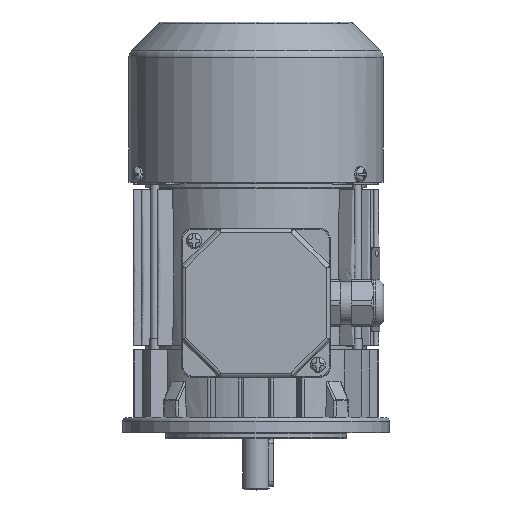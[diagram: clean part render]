
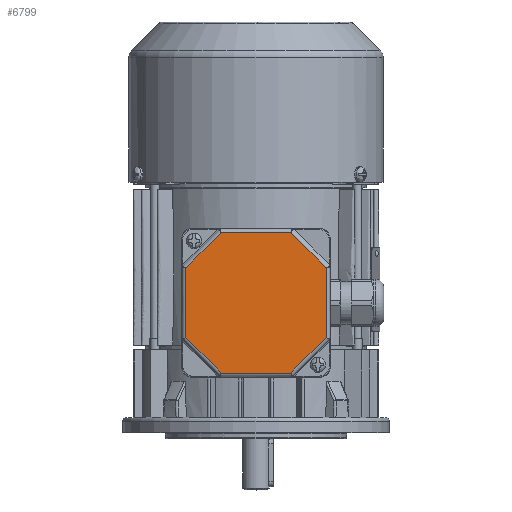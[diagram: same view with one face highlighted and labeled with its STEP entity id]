
A CAD part, top view. The second image highlights one B-rep face of the part: STEP entity #6799.
In plain terms, the highlighted planar face has unit normal (0, 0, 1).
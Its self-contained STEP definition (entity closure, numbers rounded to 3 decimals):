
#6799 = ADVANCED_FACE( '', ( #13914 ), #13915, .T. );
#13914 = FACE_OUTER_BOUND( '', #47651, .T. );
#13915 = PLANE( '', #47652 );
#47651 = EDGE_LOOP( '', ( #72312, #72313, #72314, #72315, #72316, #72317, #72318, #72319 ) );
#47652 = AXIS2_PLACEMENT_3D( '', #72320, #72321, #72322 );
#72312 = ORIENTED_EDGE( '', *, *, #77615, .T. );
#72313 = ORIENTED_EDGE( '', *, *, #83338, .T. );
#72314 = ORIENTED_EDGE( '', *, *, #82909, .T. );
#72315 = ORIENTED_EDGE( '', *, *, #79921, .T. );
#72316 = ORIENTED_EDGE( '', *, *, #78436, .T. );
#72317 = ORIENTED_EDGE( '', *, *, #79467, .T. );
#72318 = ORIENTED_EDGE( '', *, *, #75545, .T. );
#72319 = ORIENTED_EDGE( '', *, *, #82987, .T. );
#72320 = CARTESIAN_POINT( '', ( -39., 39., 12. ) );
#72321 = DIRECTION( '', ( 0., 0., 1. ) );
#72322 = DIRECTION( '', ( 1., 0., 0. ) );
#75545 = EDGE_CURVE( '', #83876, #83877, #83878, .F. );
#77615 = EDGE_CURVE( '', #87508, #87506, #87509, .F. );
#78436 = EDGE_CURVE( '', #88911, #88912, #88913, .F. );
#79467 = EDGE_CURVE( '', #88912, #83876, #90521, .T. );
#79921 = EDGE_CURVE( '', #91202, #88911, #91203, .T. );
#82909 = EDGE_CURVE( '', #86658, #91202, #95109, .F. );
#82987 = EDGE_CURVE( '', #83877, #87508, #95193, .T. );
#83338 = EDGE_CURVE( '', #87506, #86658, #95579, .T. );
#83876 = VERTEX_POINT( '', #96121 );
#83877 = VERTEX_POINT( '', #96122 );
#83878 = LINE( '', #96123, #96124 );
#86658 = VERTEX_POINT( '', #106397 );
#87506 = VERTEX_POINT( '', #109334 );
#87508 = VERTEX_POINT( '', #109336 );
#87509 = LINE( '', #109337, #109338 );
#88911 = VERTEX_POINT( '', #112368 );
#88912 = VERTEX_POINT( '', #112369 );
#88913 = LINE( '', #112370, #112371 );
#90521 = LINE( '', #117937, #117938 );
#91202 = VERTEX_POINT( '', #119884 );
#91203 = LINE( '', #119885, #119886 );
#95109 = LINE( '', #135285, #135286 );
#95193 = LINE( '', #135549, #135550 );
#95579 = LINE( '', #137090, #137091 );
#96121 = CARTESIAN_POINT( '', ( -18.255, -36.825, 12. ) );
#96122 = CARTESIAN_POINT( '', ( 18.255, -36.825, 12. ) );
#96123 = CARTESIAN_POINT( '', ( 19.069, -36.825, 12. ) );
#96124 = VECTOR( '', #138154, 1000. );
#106397 = CARTESIAN_POINT( '', ( 18.255, 36.825, 12. ) );
#109334 = CARTESIAN_POINT( '', ( 36.825, 18.255, 12. ) );
#109336 = CARTESIAN_POINT( '', ( 36.825, -18.255, 12. ) );
#109337 = CARTESIAN_POINT( '', ( 36.825, 19.069, 12. ) );
#109338 = VECTOR( '', #140488, 1000. );
#112368 = CARTESIAN_POINT( '', ( -36.825, 18.255, 12. ) );
#112369 = CARTESIAN_POINT( '', ( -36.825, -18.255, 12. ) );
#112370 = CARTESIAN_POINT( '', ( -36.825, -19.069, 12. ) );
#112371 = VECTOR( '', #141780, 1000. );
#117937 = CARTESIAN_POINT( '', ( -17.679, -37.401, 12. ) );
#117938 = VECTOR( '', #142895, 1000. );
#119884 = CARTESIAN_POINT( '', ( -18.255, 36.825, 12. ) );
#119885 = CARTESIAN_POINT( '', ( -37.401, 17.679, 12. ) );
#119886 = VECTOR( '', #143415, 1000. );
#135285 = CARTESIAN_POINT( '', ( -19.069, 36.825, 12. ) );
#135286 = VECTOR( '', #146397, 1000. );
#135549 = CARTESIAN_POINT( '', ( 37.401, -17.679, 12. ) );
#135550 = VECTOR( '', #146457, 1000. );
#137090 = CARTESIAN_POINT( '', ( 17.679, 37.401, 12. ) );
#137091 = VECTOR( '', #146693, 1000. );
#138154 = DIRECTION( '', ( -1., 0., 0. ) );
#140488 = DIRECTION( '', ( 0., -1., 0. ) );
#141780 = DIRECTION( '', ( 0., 1., 0. ) );
#142895 = DIRECTION( '', ( 0.707, -0.707, 0. ) );
#143415 = DIRECTION( '', ( -0.707, -0.707, 0. ) );
#146397 = DIRECTION( '', ( 1., 0., 0. ) );
#146457 = DIRECTION( '', ( 0.707, 0.707, 0. ) );
#146693 = DIRECTION( '', ( -0.707, 0.707, 0. ) );
